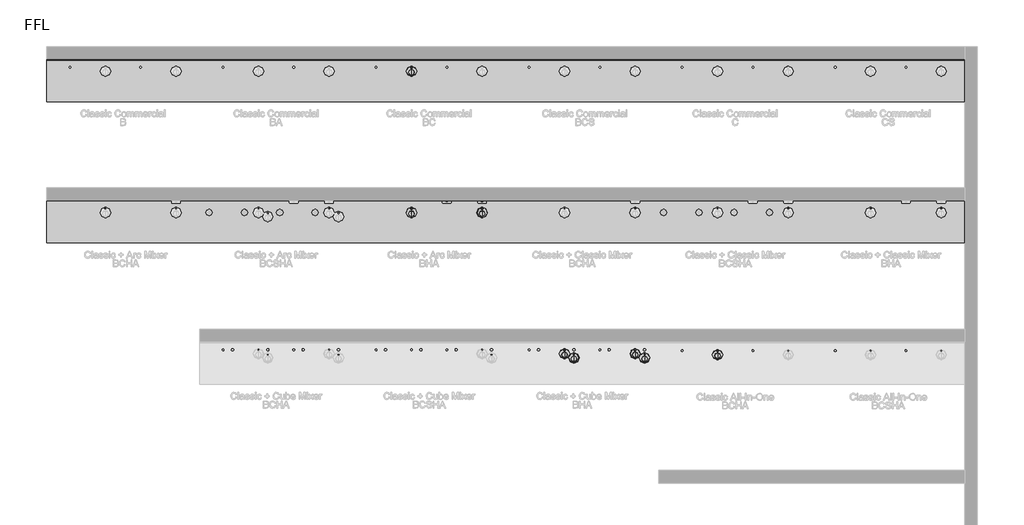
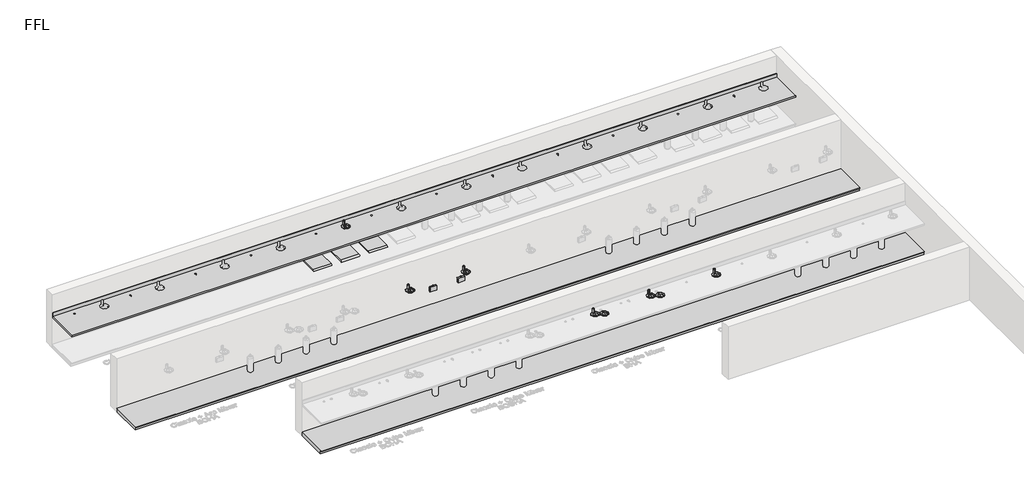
# One storey, part 3 of 13: 15 flow terminals, 3 furniture elements.
"""IFC4 building model written with IfcOpenShell, lengths in millimetres."""

from ifc_helpers import new_model, si_unit, frame, origin, place, context, project, spatial, polyline, circle_curve, transform, mapped, element, save
from ifc_brep_helpers import plane_surface, revolved_surface, advanced_brep
from components import flow_terminal_100_people_matte_black_1da322c1, bcs_and_bc_6de74493, bright_chrome_13082571, bright_chrome_f48ec22c, generic_plinth_900mm_a81356e5, generic_plinth_900mm_fa4a643e

model = new_model("IFC4")

# Units and contexts
model_context = context("Model", 3, world=origin())
ifc_project = project(units=[si_unit("LENGTHUNIT", "METRE", prefix="MILLI")], contexts=[model_context])

# Site, building, storey
site = spatial("IfcSite", under=ifc_project)
building = spatial("IfcBuilding", under=site)
storey = spatial("IfcBuildingStorey", under=building, Name="FFL", Elevation=0.0)

# Flow terminals
placement = place(None, origin())
flow_terminal_100_people_matte_black_shape = flow_terminal_100_people_matte_black_1da322c1(model_context)
element("IfcFlowTerminal", 1, ObjectType="PlumFixt_Zip Commercial_Classic_Arc Mixer_BHA : 100 People - Gloss Black", at=placement, inside=storey, context=model_context, shape_type="MappedRepresentation", body=[
    mapped(flow_terminal_100_people_matte_black_shape, transform((1529.2657919, 4562.7393304, 0.0), x_axis=(1.0, 0.0, 0.0), y_axis=(0.0, 1.0, 0.0), z_axis=(0.0, 0.0, 1.0))),
])
element("IfcFlowTerminal", 2, ObjectType="PlumFixt_Zip Commercial_Classic_Cube Mixer_BHA : 100 People - Gloss Black", at=placement, inside=storey, context=model_context, shape_type="MappedRepresentation", body=[
    mapped(flow_terminal_100_people_matte_black_shape, transform((4779.2647071, 1562.7393304, 0.0), x_axis=(1.0, 0.0, 0.0), y_axis=(0.0, 1.0, 0.0), z_axis=(0.0, 0.0, 1.0))),
])
element("IfcFlowTerminal", 3, ObjectType="PlumFixt_Zip Commercial_Classic_Cube Mixer_BHA : 100 People - Matte Black", at=placement, inside=storey, context=model_context, shape_type="MappedRepresentation", body=[
    mapped(flow_terminal_100_people_matte_black_shape, transform((5529.2647071, 1562.7393304, 0.0), x_axis=(1.0, 0.0, 0.0), y_axis=(0.0, 1.0, 0.0), z_axis=(0.0, 0.0, 1.0))),
])
element("IfcFlowTerminal", 4, ObjectType="PlumFixt_Zip Commercial_Classic_Arc Mixer_BHA : 100 People - Matte Black", at=placement, inside=storey, context=model_context, shape_type="MappedRepresentation", body=[
    mapped(flow_terminal_100_people_matte_black_shape, transform((2279.2657919, 4562.7393304, 0.0), x_axis=(1.0, 0.0, 0.0), y_axis=(0.0, 1.0, 0.0), z_axis=(0.0, 0.0, 1.0))),
])
bcs_and_bc_shape = bcs_and_bc_6de74493(model_context)
element("IfcFlowTerminal", 5, ObjectType="z_PlumFixt_Zip_Vent Tray : BCS and BC", at=placement, inside=storey, context=model_context, shape_type="MappedRepresentation", body=[
    mapped(bcs_and_bc_shape, transform((29.2647071, 7705.7393304, 100.0), x_axis=(1.0, 0.0, 0.0), y_axis=(0.0, 1.0, 0.0), z_axis=(0.0, 0.0, 1.0))),
])
element("IfcFlowTerminal", 6, ObjectType="z_PlumFixt_Zip_Vent Tray : BCS and BC", at=placement, inside=storey, context=model_context, shape_type="MappedRepresentation", body=[
    mapped(bcs_and_bc_shape, transform((779.2647071, 7705.7393304, 100.0), x_axis=(1.0, 0.0, 0.0), y_axis=(0.0, 1.0, 0.0), z_axis=(0.0, 0.0, 1.0))),
])
element("IfcFlowTerminal", 7, ObjectType="z_PlumFixt_Zip_Vent Tray : BCS and BC", at=placement, inside=storey, context=model_context, shape_type="MappedRepresentation", body=[
    mapped(bcs_and_bc_shape, transform((1529.2647071, 7705.7393304, 100.0), x_axis=(1.0, 0.0, 0.0), y_axis=(0.0, 1.0, 0.0), z_axis=(0.0, 0.0, 1.0))),
])
bright_chrome_shape = bright_chrome_13082571(model_context)
element("IfcFlowTerminal", 8, ObjectType="z_PlumFixt_Zip_Font and Tap Riser : Bright Chrome", at=placement, inside=storey, context=model_context, shape_type="MappedRepresentation", body=[
    mapped(bright_chrome_shape, transform((779.2647071, 7577.9893304, 900.0), x_axis=(1.0, 0.0, 0.0), y_axis=(0.0, 1.0, 0.0), z_axis=(0.0, 0.0, 1.0))),
])
element("IfcFlowTerminal", 9, ObjectType="z_PlumFixt_Zip_Font and Tap Riser : Bright Chrome", at=placement, inside=storey, context=model_context, shape_type="MappedRepresentation", body=[
    mapped(bright_chrome_shape, transform((779.2657919, 4577.9893304, 900.0), x_axis=(1.0, 0.0, 0.0), y_axis=(0.0, 1.0, 0.0), z_axis=(0.0, 0.0, 1.0))),
])
element("IfcFlowTerminal", 10, ObjectType="z_PlumFixt_Zip_Font and Tap Riser : Bright Chrome", at=placement, inside=storey, context=model_context, shape_type="MappedRepresentation", body=[
    mapped(bright_chrome_shape, transform((4029.2647071, 1577.9893304, 900.0), x_axis=(1.0, 0.0, 0.0), y_axis=(0.0, 1.0, 0.0), z_axis=(0.0, 0.0, 1.0))),
])
element("IfcFlowTerminal", 11, ObjectType="z_PlumFixt_Zip_Font and Tap Riser : Bright Chrome", at=placement, inside=storey, context=model_context, shape_type="MappedRepresentation", body=[
    mapped(bright_chrome_shape, transform((2279.2657919, 4577.9893304, 900.0), x_axis=(1.0, 0.0, 0.0), y_axis=(0.0, 1.0, 0.0), z_axis=(0.0, 0.0, 1.0))),
])
element("IfcFlowTerminal", 12, ObjectType="z_PlumFixt_Zip_Font and Tap Riser : Bright Chrome", at=placement, inside=storey, context=model_context, shape_type="MappedRepresentation", body=[
    mapped(bright_chrome_shape, transform((5529.2647071, 1577.9893304, 900.0), x_axis=(1.0, 0.0, 0.0), y_axis=(0.0, 1.0, 0.0), z_axis=(0.0, 0.0, 1.0))),
])
element("IfcFlowTerminal", 13, ObjectType="z_PlumFixt_Zip_Font and Tap Riser : Brushed Chrome", at=placement, inside=storey, context=model_context, shape_type="MappedRepresentation", body=[
    mapped(bright_chrome_shape, transform((7279.2647071, 1558.9393304, 900.0), x_axis=(1.0, 0.0, 0.0), y_axis=(0.0, 1.0, 0.0), z_axis=(0.0, 0.0, 1.0))),
])
bright_chrome_2_shape = bright_chrome_f48ec22c(model_context)
element("IfcFlowTerminal", 14, ObjectType="z_PlumFixt_Zip_Font : Brushed Chrome", at=placement, inside=storey, context=model_context, shape_type="MappedRepresentation", body=[
    mapped(bright_chrome_2_shape, transform((4229.2647071, 1491.2393304, 900.0), x_axis=(1.0000000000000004, 0.0, 0.0), y_axis=(0.0, 1.0000000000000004, 0.0), z_axis=(0.0, 0.0, 1.0))),
])
element("IfcFlowTerminal", 15, ObjectType="z_PlumFixt_Zip_Font : Matte Black", at=placement, inside=storey, context=model_context, shape_type="MappedRepresentation", body=[
    mapped(bright_chrome_2_shape, transform((5729.2647071, 1491.2393304, 900.0), x_axis=(1.0000000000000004, 0.0, 0.0), y_axis=(0.0, 1.0000000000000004, 0.0), z_axis=(0.0, 0.0, 1.0))),
])

# Furniture
element("IfcFurniture", 16, ObjectType="Counter Top : 900mm Depth", at=placement, inside=storey, context=model_context, shape_type="AdvancedBrep", body=[
    advanced_brep(
    [(-6969.7352929, 6948.2393304, 900.0), (12530.2647071, 6948.2393304, 900.0), (12530.2647071, 7829.1893304, 900.0), (-6969.7352929, 7829.1893304, 900.0), (-6487.2352929, 7678.2393304, 900.0), (-6452.2352929, 7678.2393304, 900.0), (-5719.7352929, 7639.8212903, 900.0), (-5719.7352929, 7503.4212903, 900.0), (-5737.2352929, 7678.2393304, 900.0), (-5702.2352929, 7678.2393304, 900.0), (-4987.2352929, 7678.2393304, 900.0), (-4952.2352929, 7678.2393304, 900.0), (-4219.7352929, 7639.8212903, 900.0), (-4219.7352929, 7503.4212903, 900.0), (-4237.2352929, 7678.2393304, 900.0), (-4202.2352929, 7678.2393304, 900.0), (-3237.2352929, 7678.2393304, 900.0), (-3202.2352929, 7678.2393304, 900.0), (-2487.2352929, 7678.2393304, 900.0), (-2452.2352929, 7678.2393304, 900.0), (-1737.2352929, 7678.2393304, 900.0), (-1702.2352929, 7678.2393304, 900.0), (-987.2352929, 7678.2393304, 900.0), (-952.2352929, 7678.2393304, 900.0), (12.7647071, 7678.2393304, 900.0), (47.7647071, 7678.2393304, 900.0), (780.2647071, 7639.8212903, 900.0), (780.2647071, 7503.4212903, 900.0), (762.7647071, 7678.2393304, 900.0), (797.7647071, 7678.2393304, 900.0), (1512.7647071, 7678.2393304, 900.0), (1547.7647071, 7678.2393304, 900.0), (2280.2647071, 7639.8212903, 900.0), (2280.2647071, 7503.4212903, 900.0), (2262.7647071, 7678.2393304, 900.0), (2297.7647071, 7678.2393304, 900.0), (-2469.7352929, 7639.8212903, 900.0), (-2469.7352929, 7503.4212903, 900.0), (-969.7352929, 7639.8212903, 900.0), (-969.7352929, 7503.4212903, 900.0), (3262.7647071, 7678.2393304, 900.0), (3297.7647071, 7678.2393304, 900.0), (4030.2647071, 7639.8212903, 900.0), (4030.2647071, 7503.4212903, 900.0), (4012.7647071, 7678.2393304, 900.0), (4047.7647071, 7678.2393304, 900.0), (4762.7647071, 7678.2393304, 900.0), (4797.7647071, 7678.2393304, 900.0), (5530.2647071, 7639.8212903, 900.0), (5530.2647071, 7503.4212903, 900.0), (5512.7647071, 7678.2393304, 900.0), (5547.7647071, 7678.2393304, 900.0), (6512.7647071, 7678.2393304, 900.0), (6547.7647071, 7678.2393304, 900.0), (7280.2647071, 7639.8212903, 900.0), (7280.2647071, 7503.4212903, 900.0), (7262.7647071, 7678.2393304, 900.0), (7297.7647071, 7678.2393304, 900.0), (8012.7647071, 7678.2393304, 900.0), (8047.7647071, 7678.2393304, 900.0), (8780.2647071, 7639.8212903, 900.0), (8780.2647071, 7503.4212903, 900.0), (8762.7647071, 7678.2393304, 900.0), (8797.7647071, 7678.2393304, 900.0), (9762.7647071, 7678.2393304, 900.0), (9797.7647071, 7678.2393304, 900.0), (10530.2647071, 7639.8212903, 900.0), (10530.2647071, 7503.4212903, 900.0), (10512.7647071, 7678.2393304, 900.0), (10547.7647071, 7678.2393304, 900.0), (11262.7647071, 7678.2393304, 900.0), (11297.7647071, 7678.2393304, 900.0), (12030.2647071, 7639.8212903, 900.0), (12030.2647071, 7503.4212903, 900.0), (12012.7647071, 7678.2393304, 900.0), (12047.7647071, 7678.2393304, 900.0), (12530.2647071, 7848.2393304, 860.0), (12530.2647071, 6948.2393304, 860.0), (-6969.7352929, 6948.2393304, 860.0), (-6969.7352929, 7848.2393304, 860.0), (-6452.2352929, 7678.2393304, 860.0), (-6487.2352929, 7678.2393304, 860.0), (-5719.7352929, 7503.4212903, 860.0), (-5719.7352929, 7639.8212903, 860.0), (-5702.2352929, 7678.2393304, 860.0), (-5737.2352929, 7678.2393304, 860.0), (-4952.2352929, 7678.2393304, 860.0), (-4987.2352929, 7678.2393304, 860.0), (-4219.7352929, 7503.4212903, 860.0), (-4219.7352929, 7639.8212903, 860.0), (-4202.2352929, 7678.2393304, 860.0), (-4237.2352929, 7678.2393304, 860.0), (-3202.2352929, 7678.2393304, 860.0), (-3237.2352929, 7678.2393304, 860.0), (-2452.2352929, 7678.2393304, 860.0), (-2487.2352929, 7678.2393304, 860.0), (-1702.2352929, 7678.2393304, 860.0), (-1737.2352929, 7678.2393304, 860.0), (-952.2352929, 7678.2393304, 860.0), (-987.2352929, 7678.2393304, 860.0), (47.7647071, 7678.2393304, 860.0), (12.7647071, 7678.2393304, 860.0), (780.2647071, 7503.4212903, 860.0), (780.2647071, 7639.8212903, 860.0), (797.7647071, 7678.2393304, 860.0), (762.7647071, 7678.2393304, 860.0), (1547.7647071, 7678.2393304, 860.0), (1512.7647071, 7678.2393304, 860.0), (2280.2647071, 7503.4212903, 860.0), (2280.2647071, 7639.8212903, 860.0), (2297.7647071, 7678.2393304, 860.0), (2262.7647071, 7678.2393304, 860.0), (-2469.7352929, 7503.4212903, 860.0), (-2469.7352929, 7639.8212903, 860.0), (-969.7352929, 7503.4212903, 860.0), (-969.7352929, 7639.8212903, 860.0), (3297.7647071, 7678.2393304, 860.0), (3262.7647071, 7678.2393304, 860.0), (4030.2647071, 7503.4212903, 860.0), (4030.2647071, 7639.8212903, 860.0), (4047.7647071, 7678.2393304, 860.0), (4012.7647071, 7678.2393304, 860.0), (4797.7647071, 7678.2393304, 860.0), (4762.7647071, 7678.2393304, 860.0), (5530.2647071, 7503.4212903, 860.0), (5530.2647071, 7639.8212903, 860.0), (5547.7647071, 7678.2393304, 860.0), (5512.7647071, 7678.2393304, 860.0), (6547.7647071, 7678.2393304, 860.0), (6512.7647071, 7678.2393304, 860.0), (7280.2647071, 7503.4212903, 860.0), (7280.2647071, 7639.8212903, 860.0), (7297.7647071, 7678.2393304, 860.0), (7262.7647071, 7678.2393304, 860.0), (8047.7647071, 7678.2393304, 860.0), (8012.7647071, 7678.2393304, 860.0), (8780.2647071, 7503.4212903, 860.0), (8780.2647071, 7639.8212903, 860.0), (8797.7647071, 7678.2393304, 860.0), (8762.7647071, 7678.2393304, 860.0), (9797.7647071, 7678.2393304, 860.0), (9762.7647071, 7678.2393304, 860.0), (10530.2647071, 7503.4212903, 860.0), (10530.2647071, 7639.8212903, 860.0), (10547.7647071, 7678.2393304, 860.0), (10512.7647071, 7678.2393304, 860.0), (11297.7647071, 7678.2393304, 860.0), (11262.7647071, 7678.2393304, 860.0), (12030.2647071, 7503.4212903, 860.0), (12030.2647071, 7639.8212903, 860.0), (12047.7647071, 7678.2393304, 860.0), (12012.7647071, 7678.2393304, 860.0), (-6969.7352929, 7848.2393304, 1001.6), (12530.2647071, 7848.2393304, 1001.6), (-6969.7352929, 7829.1893304, 1001.6), (12530.2647071, 7829.1893304, 1001.6)],
    [
        (0, 1),
        (1, 2),
        (2, 3),
        (3, 0),
        (4, 5, circle_curve(frame((-6469.7352929, 7678.2393304, 900.0), z_axis=(0.0, 0.0, -1.0), x_axis=(-1.0, 0.0, 0.0)), 17.5)),
        (5, 4, circle_curve(frame((-6469.7352929, 7678.2393304, 900.0), z_axis=(0.0, 0.0, -1.0), x_axis=(-1.0, 0.0, 0.0)), 17.5)),
        (6, 7, circle_curve(frame((-5719.7352929, 7571.6212903, 900.0), z_axis=(0.0, 0.0, -1.0), x_axis=(0.0, -1.0, 0.0)), 68.2)),
        (7, 6, circle_curve(frame((-5719.7352929, 7571.6212903, 900.0), z_axis=(0.0, 0.0, -1.0), x_axis=(0.0, -1.0, 0.0)), 68.2)),
        (8, 9, circle_curve(frame((-5719.7352929, 7678.2393304, 900.0), z_axis=(0.0, 0.0, -1.0), x_axis=(-1.0, 0.0, 0.0)), 17.5)),
        (9, 8, circle_curve(frame((-5719.7352929, 7678.2393304, 900.0), z_axis=(0.0, 0.0, -1.0), x_axis=(-1.0, 0.0, 0.0)), 17.5)),
        (10, 11, circle_curve(frame((-4969.7352929, 7678.2393304, 900.0), z_axis=(0.0, 0.0, -1.0), x_axis=(-1.0, 0.0, 0.0)), 17.5)),
        (11, 10, circle_curve(frame((-4969.7352929, 7678.2393304, 900.0), z_axis=(0.0, 0.0, -1.0), x_axis=(-1.0, 0.0, 0.0)), 17.5)),
        (12, 13, circle_curve(frame((-4219.7352929, 7571.6212903, 900.0), z_axis=(0.0, 0.0, -1.0), x_axis=(0.0, -1.0, 0.0)), 68.2)),
        (13, 12, circle_curve(frame((-4219.7352929, 7571.6212903, 900.0), z_axis=(0.0, 0.0, -1.0), x_axis=(0.0, -1.0, 0.0)), 68.2)),
        (14, 15, circle_curve(frame((-4219.7352929, 7678.2393304, 900.0), z_axis=(0.0, 0.0, -1.0), x_axis=(-1.0, 0.0, 0.0)), 17.5)),
        (15, 14, circle_curve(frame((-4219.7352929, 7678.2393304, 900.0), z_axis=(0.0, 0.0, -1.0), x_axis=(-1.0, 0.0, 0.0)), 17.5)),
        (16, 17, circle_curve(frame((-3219.7352929, 7678.2393304, 900.0), z_axis=(0.0, 0.0, -1.0), x_axis=(-1.0, 0.0, 0.0)), 17.5)),
        (17, 16, circle_curve(frame((-3219.7352929, 7678.2393304, 900.0), z_axis=(0.0, 0.0, -1.0), x_axis=(-1.0, 0.0, 0.0)), 17.5)),
        (18, 19, circle_curve(frame((-2469.7352929, 7678.2393304, 900.0), z_axis=(0.0, 0.0, -1.0), x_axis=(-1.0, 0.0, 0.0)), 17.5)),
        (19, 18, circle_curve(frame((-2469.7352929, 7678.2393304, 900.0), z_axis=(0.0, 0.0, -1.0), x_axis=(-1.0, 0.0, 0.0)), 17.5)),
        (20, 21, circle_curve(frame((-1719.7352929, 7678.2393304, 900.0), z_axis=(0.0, 0.0, -1.0), x_axis=(-1.0, 0.0, 0.0)), 17.5)),
        (21, 20, circle_curve(frame((-1719.7352929, 7678.2393304, 900.0), z_axis=(0.0, 0.0, -1.0), x_axis=(-1.0, 0.0, 0.0)), 17.5)),
        (22, 23, circle_curve(frame((-969.7352929, 7678.2393304, 900.0), z_axis=(0.0, 0.0, -1.0), x_axis=(-1.0, 0.0, 0.0)), 17.5)),
        (23, 22, circle_curve(frame((-969.7352929, 7678.2393304, 900.0), z_axis=(0.0, 0.0, -1.0), x_axis=(-1.0, 0.0, 0.0)), 17.5)),
        (24, 25, circle_curve(frame((30.2647071, 7678.2393304, 900.0), z_axis=(0.0, 0.0, -1.0), x_axis=(-1.0, 0.0, 0.0)), 17.5)),
        (25, 24, circle_curve(frame((30.2647071, 7678.2393304, 900.0), z_axis=(0.0, 0.0, -1.0), x_axis=(-1.0, 0.0, 0.0)), 17.5)),
        (26, 27, circle_curve(frame((780.2647071, 7571.6212903, 900.0), z_axis=(0.0, 0.0, -1.0), x_axis=(0.0, -1.0, 0.0)), 68.2)),
        (27, 26, circle_curve(frame((780.2647071, 7571.6212903, 900.0), z_axis=(0.0, 0.0, -1.0), x_axis=(0.0, -1.0, 0.0)), 68.2)),
        (28, 29, circle_curve(frame((780.2647071, 7678.2393304, 900.0), z_axis=(0.0, 0.0, -1.0), x_axis=(-1.0, 0.0, 0.0)), 17.5)),
        (29, 28, circle_curve(frame((780.2647071, 7678.2393304, 900.0), z_axis=(0.0, 0.0, -1.0), x_axis=(-1.0, 0.0, 0.0)), 17.5)),
        (30, 31, circle_curve(frame((1530.2647071, 7678.2393304, 900.0), z_axis=(0.0, 0.0, -1.0), x_axis=(-1.0, 0.0, 0.0)), 17.5)),
        (31, 30, circle_curve(frame((1530.2647071, 7678.2393304, 900.0), z_axis=(0.0, 0.0, -1.0), x_axis=(-1.0, 0.0, 0.0)), 17.5)),
        (32, 33, circle_curve(frame((2280.2647071, 7571.6212903, 900.0), z_axis=(0.0, 0.0, -1.0), x_axis=(0.0, -1.0, 0.0)), 68.2)),
        (33, 32, circle_curve(frame((2280.2647071, 7571.6212903, 900.0), z_axis=(0.0, 0.0, -1.0), x_axis=(0.0, -1.0, 0.0)), 68.2)),
        (34, 35, circle_curve(frame((2280.2647071, 7678.2393304, 900.0), z_axis=(0.0, 0.0, -1.0), x_axis=(-1.0, 0.0, 0.0)), 17.5)),
        (35, 34, circle_curve(frame((2280.2647071, 7678.2393304, 900.0), z_axis=(0.0, 0.0, -1.0), x_axis=(-1.0, 0.0, 0.0)), 17.5)),
        (36, 37, circle_curve(frame((-2469.7352929, 7571.6212903, 900.0), z_axis=(0.0, 0.0, -1.0), x_axis=(0.0, -1.0, 0.0)), 68.2)),
        (37, 36, circle_curve(frame((-2469.7352929, 7571.6212903, 900.0), z_axis=(0.0, 0.0, -1.0), x_axis=(0.0, -1.0, 0.0)), 68.2)),
        (38, 39, circle_curve(frame((-969.7352929, 7571.6212903, 900.0), z_axis=(0.0, 0.0, -1.0), x_axis=(0.0, -1.0, 0.0)), 68.2)),
        (39, 38, circle_curve(frame((-969.7352929, 7571.6212903, 900.0), z_axis=(0.0, 0.0, -1.0), x_axis=(0.0, -1.0, 0.0)), 68.2)),
        (40, 41, circle_curve(frame((3280.2647071, 7678.2393304, 900.0), z_axis=(0.0, 0.0, -1.0), x_axis=(-1.0, 0.0, 0.0)), 17.5)),
        (41, 40, circle_curve(frame((3280.2647071, 7678.2393304, 900.0), z_axis=(0.0, 0.0, -1.0), x_axis=(-1.0, 0.0, 0.0)), 17.5)),
        (42, 43, circle_curve(frame((4030.2647071, 7571.6212903, 900.0), z_axis=(0.0, 0.0, -1.0), x_axis=(0.0, -1.0, 0.0)), 68.2)),
        (43, 42, circle_curve(frame((4030.2647071, 7571.6212903, 900.0), z_axis=(0.0, 0.0, -1.0), x_axis=(0.0, -1.0, 0.0)), 68.2)),
        (44, 45, circle_curve(frame((4030.2647071, 7678.2393304, 900.0), z_axis=(0.0, 0.0, -1.0), x_axis=(-1.0, 0.0, 0.0)), 17.5)),
        (45, 44, circle_curve(frame((4030.2647071, 7678.2393304, 900.0), z_axis=(0.0, 0.0, -1.0), x_axis=(-1.0, 0.0, 0.0)), 17.5)),
        (46, 47, circle_curve(frame((4780.2647071, 7678.2393304, 900.0), z_axis=(0.0, 0.0, -1.0), x_axis=(-1.0, 0.0, 0.0)), 17.5)),
        (47, 46, circle_curve(frame((4780.2647071, 7678.2393304, 900.0), z_axis=(0.0, 0.0, -1.0), x_axis=(-1.0, 0.0, 0.0)), 17.5)),
        (48, 49, circle_curve(frame((5530.2647071, 7571.6212903, 900.0), z_axis=(0.0, 0.0, -1.0), x_axis=(0.0, -1.0, 0.0)), 68.2)),
        (49, 48, circle_curve(frame((5530.2647071, 7571.6212903, 900.0), z_axis=(0.0, 0.0, -1.0), x_axis=(0.0, -1.0, 0.0)), 68.2)),
        (50, 51, circle_curve(frame((5530.2647071, 7678.2393304, 900.0), z_axis=(0.0, 0.0, -1.0), x_axis=(-1.0, 0.0, 0.0)), 17.5)),
        (51, 50, circle_curve(frame((5530.2647071, 7678.2393304, 900.0), z_axis=(0.0, 0.0, -1.0), x_axis=(-1.0, 0.0, 0.0)), 17.5)),
        (52, 53, circle_curve(frame((6530.2647071, 7678.2393304, 900.0), z_axis=(0.0, 0.0, -1.0), x_axis=(-1.0, 0.0, 0.0)), 17.5)),
        (53, 52, circle_curve(frame((6530.2647071, 7678.2393304, 900.0), z_axis=(0.0, 0.0, -1.0), x_axis=(-1.0, 0.0, 0.0)), 17.5)),
        (54, 55, circle_curve(frame((7280.2647071, 7571.6212903, 900.0), z_axis=(0.0, 0.0, -1.0), x_axis=(0.0, -1.0, 0.0)), 68.2)),
        (55, 54, circle_curve(frame((7280.2647071, 7571.6212903, 900.0), z_axis=(0.0, 0.0, -1.0), x_axis=(0.0, -1.0, 0.0)), 68.2)),
        (56, 57, circle_curve(frame((7280.2647071, 7678.2393304, 900.0), z_axis=(0.0, 0.0, -1.0), x_axis=(-1.0, 0.0, 0.0)), 17.5)),
        (57, 56, circle_curve(frame((7280.2647071, 7678.2393304, 900.0), z_axis=(0.0, 0.0, -1.0), x_axis=(-1.0, 0.0, 0.0)), 17.5)),
        (58, 59, circle_curve(frame((8030.2647071, 7678.2393304, 900.0), z_axis=(0.0, 0.0, -1.0), x_axis=(-1.0, 0.0, 0.0)), 17.5)),
        (59, 58, circle_curve(frame((8030.2647071, 7678.2393304, 900.0), z_axis=(0.0, 0.0, -1.0), x_axis=(-1.0, 0.0, 0.0)), 17.5)),
        (60, 61, circle_curve(frame((8780.2647071, 7571.6212903, 900.0), z_axis=(0.0, 0.0, -1.0), x_axis=(0.0, -1.0, 0.0)), 68.2)),
        (61, 60, circle_curve(frame((8780.2647071, 7571.6212903, 900.0), z_axis=(0.0, 0.0, -1.0), x_axis=(0.0, -1.0, 0.0)), 68.2)),
        (62, 63, circle_curve(frame((8780.2647071, 7678.2393304, 900.0), z_axis=(0.0, 0.0, -1.0), x_axis=(-1.0, 0.0, 0.0)), 17.5)),
        (63, 62, circle_curve(frame((8780.2647071, 7678.2393304, 900.0), z_axis=(0.0, 0.0, -1.0), x_axis=(-1.0, 0.0, 0.0)), 17.5)),
        (64, 65, circle_curve(frame((9780.2647071, 7678.2393304, 900.0), z_axis=(0.0, 0.0, -1.0), x_axis=(-1.0, 0.0, 0.0)), 17.5)),
        (65, 64, circle_curve(frame((9780.2647071, 7678.2393304, 900.0), z_axis=(0.0, 0.0, -1.0), x_axis=(-1.0, 0.0, 0.0)), 17.5)),
        (66, 67, circle_curve(frame((10530.2647071, 7571.6212903, 900.0), z_axis=(0.0, 0.0, -1.0), x_axis=(0.0, -1.0, 0.0)), 68.2)),
        (67, 66, circle_curve(frame((10530.2647071, 7571.6212903, 900.0), z_axis=(0.0, 0.0, -1.0), x_axis=(0.0, -1.0, 0.0)), 68.2)),
        (68, 69, circle_curve(frame((10530.2647071, 7678.2393304, 900.0), z_axis=(0.0, 0.0, -1.0), x_axis=(-1.0, 0.0, 0.0)), 17.5)),
        (69, 68, circle_curve(frame((10530.2647071, 7678.2393304, 900.0), z_axis=(0.0, 0.0, -1.0), x_axis=(-1.0, 0.0, 0.0)), 17.5)),
        (70, 71, circle_curve(frame((11280.2647071, 7678.2393304, 900.0), z_axis=(0.0, 0.0, -1.0), x_axis=(-1.0, 0.0, 0.0)), 17.5)),
        (71, 70, circle_curve(frame((11280.2647071, 7678.2393304, 900.0), z_axis=(0.0, 0.0, -1.0), x_axis=(-1.0, 0.0, 0.0)), 17.5)),
        (72, 73, circle_curve(frame((12030.2647071, 7571.6212903, 900.0), z_axis=(0.0, 0.0, -1.0), x_axis=(0.0, -1.0, 0.0)), 68.2)),
        (73, 72, circle_curve(frame((12030.2647071, 7571.6212903, 900.0), z_axis=(0.0, 0.0, -1.0), x_axis=(0.0, -1.0, 0.0)), 68.2)),
        (74, 75, circle_curve(frame((12030.2647071, 7678.2393304, 900.0), z_axis=(0.0, 0.0, -1.0), x_axis=(-1.0, 0.0, 0.0)), 17.5)),
        (75, 74, circle_curve(frame((12030.2647071, 7678.2393304, 900.0), z_axis=(0.0, 0.0, -1.0), x_axis=(-1.0, 0.0, 0.0)), 17.5)),
        (76, 77),
        (77, 78),
        (78, 79),
        (79, 76),
        (80, 81, circle_curve(frame((-6469.7352929, 7678.2393304, 860.0), z_axis=(0.0, 0.0, 1.0), x_axis=(-1.0, 0.0, 0.0)), 17.5)),
        (81, 80, circle_curve(frame((-6469.7352929, 7678.2393304, 860.0), z_axis=(0.0, 0.0, 1.0), x_axis=(-1.0, 0.0, 0.0)), 17.5)),
        (82, 83, circle_curve(frame((-5719.7352929, 7571.6212903, 860.0), z_axis=(0.0, 0.0, 1.0), x_axis=(0.0, -1.0, 0.0)), 68.2)),
        (83, 82, circle_curve(frame((-5719.7352929, 7571.6212903, 860.0), z_axis=(0.0, 0.0, 1.0), x_axis=(0.0, -1.0, 0.0)), 68.2)),
        (84, 85, circle_curve(frame((-5719.7352929, 7678.2393304, 860.0), z_axis=(0.0, 0.0, 1.0), x_axis=(-1.0, 0.0, 0.0)), 17.5)),
        (85, 84, circle_curve(frame((-5719.7352929, 7678.2393304, 860.0), z_axis=(0.0, 0.0, 1.0), x_axis=(-1.0, 0.0, 0.0)), 17.5)),
        (86, 87, circle_curve(frame((-4969.7352929, 7678.2393304, 860.0), z_axis=(0.0, 0.0, 1.0), x_axis=(-1.0, 0.0, 0.0)), 17.5)),
        (87, 86, circle_curve(frame((-4969.7352929, 7678.2393304, 860.0), z_axis=(0.0, 0.0, 1.0), x_axis=(-1.0, 0.0, 0.0)), 17.5)),
        (88, 89, circle_curve(frame((-4219.7352929, 7571.6212903, 860.0), z_axis=(0.0, 0.0, 1.0), x_axis=(0.0, -1.0, 0.0)), 68.2)),
        (89, 88, circle_curve(frame((-4219.7352929, 7571.6212903, 860.0), z_axis=(0.0, 0.0, 1.0), x_axis=(0.0, -1.0, 0.0)), 68.2)),
        (90, 91, circle_curve(frame((-4219.7352929, 7678.2393304, 860.0), z_axis=(0.0, 0.0, 1.0), x_axis=(-1.0, 0.0, 0.0)), 17.5)),
        (91, 90, circle_curve(frame((-4219.7352929, 7678.2393304, 860.0), z_axis=(0.0, 0.0, 1.0), x_axis=(-1.0, 0.0, 0.0)), 17.5)),
        (92, 93, circle_curve(frame((-3219.7352929, 7678.2393304, 860.0), z_axis=(0.0, 0.0, 1.0), x_axis=(-1.0, 0.0, 0.0)), 17.5)),
        (93, 92, circle_curve(frame((-3219.7352929, 7678.2393304, 860.0), z_axis=(0.0, 0.0, 1.0), x_axis=(-1.0, 0.0, 0.0)), 17.5)),
        (94, 95, circle_curve(frame((-2469.7352929, 7678.2393304, 860.0), z_axis=(0.0, 0.0, 1.0), x_axis=(-1.0, 0.0, 0.0)), 17.5)),
        (95, 94, circle_curve(frame((-2469.7352929, 7678.2393304, 860.0), z_axis=(0.0, 0.0, 1.0), x_axis=(-1.0, 0.0, 0.0)), 17.5)),
        (96, 97, circle_curve(frame((-1719.7352929, 7678.2393304, 860.0), z_axis=(0.0, 0.0, 1.0), x_axis=(-1.0, 0.0, 0.0)), 17.5)),
        (97, 96, circle_curve(frame((-1719.7352929, 7678.2393304, 860.0), z_axis=(0.0, 0.0, 1.0), x_axis=(-1.0, 0.0, 0.0)), 17.5)),
        (98, 99, circle_curve(frame((-969.7352929, 7678.2393304, 860.0), z_axis=(0.0, 0.0, 1.0), x_axis=(-1.0, 0.0, 0.0)), 17.5)),
        (99, 98, circle_curve(frame((-969.7352929, 7678.2393304, 860.0), z_axis=(0.0, 0.0, 1.0), x_axis=(-1.0, 0.0, 0.0)), 17.5)),
        (100, 101, circle_curve(frame((30.2647071, 7678.2393304, 860.0), z_axis=(0.0, 0.0, 1.0), x_axis=(-1.0, 0.0, 0.0)), 17.5)),
        (101, 100, circle_curve(frame((30.2647071, 7678.2393304, 860.0), z_axis=(0.0, 0.0, 1.0), x_axis=(-1.0, 0.0, 0.0)), 17.5)),
        (102, 103, circle_curve(frame((780.2647071, 7571.6212903, 860.0), z_axis=(0.0, 0.0, 1.0), x_axis=(0.0, -1.0, 0.0)), 68.2)),
        (103, 102, circle_curve(frame((780.2647071, 7571.6212903, 860.0), z_axis=(0.0, 0.0, 1.0), x_axis=(0.0, -1.0, 0.0)), 68.2)),
        (104, 105, circle_curve(frame((780.2647071, 7678.2393304, 860.0), z_axis=(0.0, 0.0, 1.0), x_axis=(-1.0, 0.0, 0.0)), 17.5)),
        (105, 104, circle_curve(frame((780.2647071, 7678.2393304, 860.0), z_axis=(0.0, 0.0, 1.0), x_axis=(-1.0, 0.0, 0.0)), 17.5)),
        (106, 107, circle_curve(frame((1530.2647071, 7678.2393304, 860.0), z_axis=(0.0, 0.0, 1.0), x_axis=(-1.0, 0.0, 0.0)), 17.5)),
        (107, 106, circle_curve(frame((1530.2647071, 7678.2393304, 860.0), z_axis=(0.0, 0.0, 1.0), x_axis=(-1.0, 0.0, 0.0)), 17.5)),
        (108, 109, circle_curve(frame((2280.2647071, 7571.6212903, 860.0), z_axis=(0.0, 0.0, 1.0), x_axis=(0.0, -1.0, 0.0)), 68.2)),
        (109, 108, circle_curve(frame((2280.2647071, 7571.6212903, 860.0), z_axis=(0.0, 0.0, 1.0), x_axis=(0.0, -1.0, 0.0)), 68.2)),
        (110, 111, circle_curve(frame((2280.2647071, 7678.2393304, 860.0), z_axis=(0.0, 0.0, 1.0), x_axis=(-1.0, 0.0, 0.0)), 17.5)),
        (111, 110, circle_curve(frame((2280.2647071, 7678.2393304, 860.0), z_axis=(0.0, 0.0, 1.0), x_axis=(-1.0, 0.0, 0.0)), 17.5)),
        (112, 113, circle_curve(frame((-2469.7352929, 7571.6212903, 860.0), z_axis=(0.0, 0.0, 1.0), x_axis=(0.0, -1.0, 0.0)), 68.2)),
        (113, 112, circle_curve(frame((-2469.7352929, 7571.6212903, 860.0), z_axis=(0.0, 0.0, 1.0), x_axis=(0.0, -1.0, 0.0)), 68.2)),
        (114, 115, circle_curve(frame((-969.7352929, 7571.6212903, 860.0), z_axis=(0.0, 0.0, 1.0), x_axis=(0.0, -1.0, 0.0)), 68.2)),
        (115, 114, circle_curve(frame((-969.7352929, 7571.6212903, 860.0), z_axis=(0.0, 0.0, 1.0), x_axis=(0.0, -1.0, 0.0)), 68.2)),
        (116, 117, circle_curve(frame((3280.2647071, 7678.2393304, 860.0), z_axis=(0.0, 0.0, 1.0), x_axis=(-1.0, 0.0, 0.0)), 17.5)),
        (117, 116, circle_curve(frame((3280.2647071, 7678.2393304, 860.0), z_axis=(0.0, 0.0, 1.0), x_axis=(-1.0, 0.0, 0.0)), 17.5)),
        (118, 119, circle_curve(frame((4030.2647071, 7571.6212903, 860.0), z_axis=(0.0, 0.0, 1.0), x_axis=(0.0, -1.0, 0.0)), 68.2)),
        (119, 118, circle_curve(frame((4030.2647071, 7571.6212903, 860.0), z_axis=(0.0, 0.0, 1.0), x_axis=(0.0, -1.0, 0.0)), 68.2)),
        (120, 121, circle_curve(frame((4030.2647071, 7678.2393304, 860.0), z_axis=(0.0, 0.0, 1.0), x_axis=(-1.0, 0.0, 0.0)), 17.5)),
        (121, 120, circle_curve(frame((4030.2647071, 7678.2393304, 860.0), z_axis=(0.0, 0.0, 1.0), x_axis=(-1.0, 0.0, 0.0)), 17.5)),
        (122, 123, circle_curve(frame((4780.2647071, 7678.2393304, 860.0), z_axis=(0.0, 0.0, 1.0), x_axis=(-1.0, 0.0, 0.0)), 17.5)),
        (123, 122, circle_curve(frame((4780.2647071, 7678.2393304, 860.0), z_axis=(0.0, 0.0, 1.0), x_axis=(-1.0, 0.0, 0.0)), 17.5)),
        (124, 125, circle_curve(frame((5530.2647071, 7571.6212903, 860.0), z_axis=(0.0, 0.0, 1.0), x_axis=(0.0, -1.0, 0.0)), 68.2)),
        (125, 124, circle_curve(frame((5530.2647071, 7571.6212903, 860.0), z_axis=(0.0, 0.0, 1.0), x_axis=(0.0, -1.0, 0.0)), 68.2)),
        (126, 127, circle_curve(frame((5530.2647071, 7678.2393304, 860.0), z_axis=(0.0, 0.0, 1.0), x_axis=(-1.0, 0.0, 0.0)), 17.5)),
        (127, 126, circle_curve(frame((5530.2647071, 7678.2393304, 860.0), z_axis=(0.0, 0.0, 1.0), x_axis=(-1.0, 0.0, 0.0)), 17.5)),
        (128, 129, circle_curve(frame((6530.2647071, 7678.2393304, 860.0), z_axis=(0.0, 0.0, 1.0), x_axis=(-1.0, 0.0, 0.0)), 17.5)),
        (129, 128, circle_curve(frame((6530.2647071, 7678.2393304, 860.0), z_axis=(0.0, 0.0, 1.0), x_axis=(-1.0, 0.0, 0.0)), 17.5)),
        (130, 131, circle_curve(frame((7280.2647071, 7571.6212903, 860.0), z_axis=(0.0, 0.0, 1.0), x_axis=(0.0, -1.0, 0.0)), 68.2)),
        (131, 130, circle_curve(frame((7280.2647071, 7571.6212903, 860.0), z_axis=(0.0, 0.0, 1.0), x_axis=(0.0, -1.0, 0.0)), 68.2)),
        (132, 133, circle_curve(frame((7280.2647071, 7678.2393304, 860.0), z_axis=(0.0, 0.0, 1.0), x_axis=(-1.0, 0.0, 0.0)), 17.5)),
        (133, 132, circle_curve(frame((7280.2647071, 7678.2393304, 860.0), z_axis=(0.0, 0.0, 1.0), x_axis=(-1.0, 0.0, 0.0)), 17.5)),
        (134, 135, circle_curve(frame((8030.2647071, 7678.2393304, 860.0), z_axis=(0.0, 0.0, 1.0), x_axis=(-1.0, 0.0, 0.0)), 17.5)),
        (135, 134, circle_curve(frame((8030.2647071, 7678.2393304, 860.0), z_axis=(0.0, 0.0, 1.0), x_axis=(-1.0, 0.0, 0.0)), 17.5)),
        (136, 137, circle_curve(frame((8780.2647071, 7571.6212903, 860.0), z_axis=(0.0, 0.0, 1.0), x_axis=(0.0, -1.0, 0.0)), 68.2)),
        (137, 136, circle_curve(frame((8780.2647071, 7571.6212903, 860.0), z_axis=(0.0, 0.0, 1.0), x_axis=(0.0, -1.0, 0.0)), 68.2)),
        (138, 139, circle_curve(frame((8780.2647071, 7678.2393304, 860.0), z_axis=(0.0, 0.0, 1.0), x_axis=(-1.0, 0.0, 0.0)), 17.5)),
        (139, 138, circle_curve(frame((8780.2647071, 7678.2393304, 860.0), z_axis=(0.0, 0.0, 1.0), x_axis=(-1.0, 0.0, 0.0)), 17.5)),
        (140, 141, circle_curve(frame((9780.2647071, 7678.2393304, 860.0), z_axis=(0.0, 0.0, 1.0), x_axis=(-1.0, 0.0, 0.0)), 17.5)),
        (141, 140, circle_curve(frame((9780.2647071, 7678.2393304, 860.0), z_axis=(0.0, 0.0, 1.0), x_axis=(-1.0, 0.0, 0.0)), 17.5)),
        (142, 143, circle_curve(frame((10530.2647071, 7571.6212903, 860.0), z_axis=(0.0, 0.0, 1.0), x_axis=(0.0, -1.0, 0.0)), 68.2)),
        (143, 142, circle_curve(frame((10530.2647071, 7571.6212903, 860.0), z_axis=(0.0, 0.0, 1.0), x_axis=(0.0, -1.0, 0.0)), 68.2)),
        (144, 145, circle_curve(frame((10530.2647071, 7678.2393304, 860.0), z_axis=(0.0, 0.0, 1.0), x_axis=(-1.0, 0.0, 0.0)), 17.5)),
        (145, 144, circle_curve(frame((10530.2647071, 7678.2393304, 860.0), z_axis=(0.0, 0.0, 1.0), x_axis=(-1.0, 0.0, 0.0)), 17.5)),
        (146, 147, circle_curve(frame((11280.2647071, 7678.2393304, 860.0), z_axis=(0.0, 0.0, 1.0), x_axis=(-1.0, 0.0, 0.0)), 17.5)),
        (147, 146, circle_curve(frame((11280.2647071, 7678.2393304, 860.0), z_axis=(0.0, 0.0, 1.0), x_axis=(-1.0, 0.0, 0.0)), 17.5)),
        (148, 149, circle_curve(frame((12030.2647071, 7571.6212903, 860.0), z_axis=(0.0, 0.0, 1.0), x_axis=(0.0, -1.0, 0.0)), 68.2)),
        (149, 148, circle_curve(frame((12030.2647071, 7571.6212903, 860.0), z_axis=(0.0, 0.0, 1.0), x_axis=(0.0, -1.0, 0.0)), 68.2)),
        (150, 151, circle_curve(frame((12030.2647071, 7678.2393304, 860.0), z_axis=(0.0, 0.0, 1.0), x_axis=(-1.0, 0.0, 0.0)), 17.5)),
        (151, 150, circle_curve(frame((12030.2647071, 7678.2393304, 860.0), z_axis=(0.0, 0.0, 1.0), x_axis=(-1.0, 0.0, 0.0)), 17.5)),
        (79, 152),
        (152, 153),
        (153, 76),
        (3, 154),
        (154, 152),
        (78, 0),
        (77, 1),
        (153, 155),
        (155, 2),
        (154, 155),
        (80, 5),
        (4, 81),
        (6, 83),
        (82, 7),
        (84, 9),
        (8, 85),
        (86, 11),
        (10, 87),
        (12, 89),
        (88, 13),
        (90, 15),
        (14, 91),
        (92, 17),
        (16, 93),
        (36, 113),
        (112, 37),
        (94, 19),
        (18, 95),
        (96, 21),
        (20, 97),
        (38, 115),
        (114, 39),
        (98, 23),
        (22, 99),
        (100, 25),
        (24, 101),
        (26, 103),
        (102, 27),
        (104, 29),
        (28, 105),
        (106, 31),
        (30, 107),
        (32, 109),
        (108, 33),
        (110, 35),
        (34, 111),
        (116, 41),
        (40, 117),
        (42, 119),
        (118, 43),
        (120, 45),
        (44, 121),
        (122, 47),
        (46, 123),
        (48, 125),
        (124, 49),
        (126, 51),
        (50, 127),
        (128, 53),
        (52, 129),
        (54, 131),
        (130, 55),
        (132, 57),
        (56, 133),
        (134, 59),
        (58, 135),
        (60, 137),
        (136, 61),
        (138, 63),
        (62, 139),
        (140, 65),
        (64, 141),
        (66, 143),
        (142, 67),
        (144, 69),
        (68, 145),
        (146, 71),
        (70, 147),
        (72, 149),
        (148, 73),
        (150, 75),
        (74, 151),
    ],
    [
        plane_surface(frame((-6969.7352929, 7848.2393304, 900.0), z_axis=(0.0, 0.0, 1.0), x_axis=(-1.0, 0.0, 0.0))),
        plane_surface(frame((-6969.7352929, 7848.2393304, 860.0), z_axis=(0.0, 0.0, -1.0), x_axis=(1.0, 0.0, 0.0))),
        plane_surface(frame((12530.2647071, 7848.2393304, 900.0), z_axis=(0.0, 1.0, 0.0), x_axis=(0.0, 0.0, -1.0))),
        plane_surface(frame((-6969.7352929, 7848.2393304, 900.0), z_axis=(-1.0, 0.0, 0.0), x_axis=(0.0, 0.0, -1.0))),
        plane_surface(frame((-6969.7352929, 6948.2393304, 900.0), z_axis=(0.0, -1.0, 0.0), x_axis=(0.0, 0.0, -1.0))),
        plane_surface(frame((12530.2647071, 6948.2393304, 900.0), z_axis=(1.0, 0.0, 0.0), x_axis=(0.0, 0.0, -1.0))),
        plane_surface(frame((-6969.7352929, 7848.2393304, 1001.6), z_axis=(0.0, 0.0, 1.0), x_axis=(0.0, -1.0, 0.0))),
        plane_surface(frame((-6969.7352929, 7829.1893304, 1001.6), z_axis=(0.0, -1.0, 0.0), x_axis=(0.0, 0.0, -1.0))),
        revolved_surface(polyline([(-6487.2352929, 7678.2393304, 900.0), (-6487.2352929, 7678.2393304, 860.0)]), (-6469.7352929, 7678.2393304, 795.0), (0.0, 0.0, 1.0)),
        revolved_surface(polyline([(-5719.7352929, 7503.4212903, 860.0), (-5719.7352929, 7503.4212903, 900.0)]), (-5719.7352929, 7571.6212903, 1005.0), (0.0, 0.0, -1.0)),
        revolved_surface(polyline([(-5737.2352929, 7678.2393304, 900.0), (-5737.2352929, 7678.2393304, 860.0)]), (-5719.7352929, 7678.2393304, 795.0), (0.0, 0.0, 1.0)),
        revolved_surface(polyline([(-4987.2352929, 7678.2393304, 900.0), (-4987.2352929, 7678.2393304, 860.0)]), (-4969.7352929, 7678.2393304, 795.0), (0.0, 0.0, 1.0)),
        revolved_surface(polyline([(-4219.7352929, 7503.4212903, 860.0), (-4219.7352929, 7503.4212903, 900.0)]), (-4219.7352929, 7571.6212903, 1005.0), (0.0, 0.0, -1.0)),
        revolved_surface(polyline([(-4237.2352929, 7678.2393304, 900.0), (-4237.2352929, 7678.2393304, 860.0)]), (-4219.7352929, 7678.2393304, 795.0), (0.0, 0.0, 1.0)),
        revolved_surface(polyline([(-3237.2352929, 7678.2393304, 900.0), (-3237.2352929, 7678.2393304, 860.0)]), (-3219.7352929, 7678.2393304, 795.0), (0.0, 0.0, 1.0)),
        revolved_surface(polyline([(-2469.7352929, 7503.4212903, 860.0), (-2469.7352929, 7503.4212903, 900.0)]), (-2469.7352929, 7571.6212903, 1005.0), (0.0, 0.0, -1.0)),
        revolved_surface(polyline([(-2487.2352929, 7678.2393304, 900.0), (-2487.2352929, 7678.2393304, 860.0)]), (-2469.7352929, 7678.2393304, 795.0), (0.0, 0.0, 1.0)),
        revolved_surface(polyline([(-1737.2352929, 7678.2393304, 900.0), (-1737.2352929, 7678.2393304, 860.0)]), (-1719.7352929, 7678.2393304, 795.0), (0.0, 0.0, 1.0)),
        revolved_surface(polyline([(-969.7352929, 7503.4212903, 860.0), (-969.7352929, 7503.4212903, 900.0)]), (-969.7352929, 7571.6212903, 1005.0), (0.0, 0.0, -1.0)),
        revolved_surface(polyline([(-987.2352929, 7678.2393304, 900.0), (-987.2352929, 7678.2393304, 860.0)]), (-969.7352929, 7678.2393304, 795.0), (0.0, 0.0, 1.0)),
        revolved_surface(polyline([(12.764707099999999, 7678.2393304, 900.0), (12.764707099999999, 7678.2393304, 860.0)]), (30.2647071, 7678.2393304, 795.0), (0.0, 0.0, 1.0)),
        revolved_surface(polyline([(780.2647071, 7503.4212903, 860.0), (780.2647071, 7503.4212903, 900.0)]), (780.2647071, 7571.6212903, 1005.0), (0.0, 0.0, -1.0)),
        revolved_surface(polyline([(762.7647071, 7678.2393304, 900.0), (762.7647071, 7678.2393304, 860.0)]), (780.2647071, 7678.2393304, 795.0), (0.0, 0.0, 1.0)),
        revolved_surface(polyline([(1512.7647071, 7678.2393304, 900.0), (1512.7647071, 7678.2393304, 860.0)]), (1530.2647071, 7678.2393304, 795.0), (0.0, 0.0, 1.0)),
        revolved_surface(polyline([(2280.2647071, 7503.4212903, 860.0), (2280.2647071, 7503.4212903, 900.0)]), (2280.2647071, 7571.6212903, 1005.0), (0.0, 0.0, -1.0)),
        revolved_surface(polyline([(2262.7647071, 7678.2393304, 900.0), (2262.7647071, 7678.2393304, 860.0)]), (2280.2647071, 7678.2393304, 795.0), (0.0, 0.0, 1.0)),
        revolved_surface(polyline([(3262.7647071, 7678.2393304, 900.0), (3262.7647071, 7678.2393304, 860.0)]), (3280.2647071, 7678.2393304, 795.0), (0.0, 0.0, 1.0)),
        revolved_surface(polyline([(4030.2647071, 7503.4212903, 860.0), (4030.2647071, 7503.4212903, 900.0)]), (4030.2647071, 7571.6212903, 1005.0), (0.0, 0.0, -1.0)),
        revolved_surface(polyline([(4012.7647071, 7678.2393304, 900.0), (4012.7647071, 7678.2393304, 860.0)]), (4030.2647071, 7678.2393304, 795.0), (0.0, 0.0, 1.0)),
        revolved_surface(polyline([(4762.7647071, 7678.2393304, 900.0), (4762.7647071, 7678.2393304, 860.0)]), (4780.2647071, 7678.2393304, 795.0), (0.0, 0.0, 1.0)),
        revolved_surface(polyline([(5530.2647071, 7503.4212903, 860.0), (5530.2647071, 7503.4212903, 900.0)]), (5530.2647071, 7571.6212903, 1005.0), (0.0, 0.0, -1.0)),
        revolved_surface(polyline([(5512.7647071, 7678.2393304, 900.0), (5512.7647071, 7678.2393304, 860.0)]), (5530.2647071, 7678.2393304, 795.0), (0.0, 0.0, 1.0)),
        revolved_surface(polyline([(6512.7647071, 7678.2393304, 900.0), (6512.7647071, 7678.2393304, 860.0)]), (6530.2647071, 7678.2393304, 795.0), (0.0, 0.0, 1.0)),
        revolved_surface(polyline([(7280.2647071, 7503.4212903, 860.0), (7280.2647071, 7503.4212903, 900.0)]), (7280.2647071, 7571.6212903, 1005.0), (0.0, 0.0, -1.0)),
        revolved_surface(polyline([(7262.7647071, 7678.2393304, 900.0), (7262.7647071, 7678.2393304, 860.0)]), (7280.2647071, 7678.2393304, 795.0), (0.0, 0.0, 1.0)),
        revolved_surface(polyline([(8012.7647071, 7678.2393304, 900.0), (8012.7647071, 7678.2393304, 860.0)]), (8030.2647071, 7678.2393304, 795.0), (0.0, 0.0, 1.0)),
        revolved_surface(polyline([(8780.2647071, 7503.4212903, 860.0), (8780.2647071, 7503.4212903, 900.0)]), (8780.2647071, 7571.6212903, 1005.0), (0.0, 0.0, -1.0)),
        revolved_surface(polyline([(8762.7647071, 7678.2393304, 900.0), (8762.7647071, 7678.2393304, 860.0)]), (8780.2647071, 7678.2393304, 795.0), (0.0, 0.0, 1.0)),
        revolved_surface(polyline([(9762.7647071, 7678.2393304, 900.0), (9762.7647071, 7678.2393304, 860.0)]), (9780.2647071, 7678.2393304, 795.0), (0.0, 0.0, 1.0)),
        revolved_surface(polyline([(10530.2647071, 7503.4212903, 860.0), (10530.2647071, 7503.4212903, 900.0)]), (10530.2647071, 7571.6212903, 1005.0), (0.0, 0.0, -1.0)),
        revolved_surface(polyline([(10512.7647071, 7678.2393304, 900.0), (10512.7647071, 7678.2393304, 860.0)]), (10530.2647071, 7678.2393304, 795.0), (0.0, 0.0, 1.0)),
        revolved_surface(polyline([(11262.7647071, 7678.2393304, 900.0), (11262.7647071, 7678.2393304, 860.0)]), (11280.2647071, 7678.2393304, 795.0), (0.0, 0.0, 1.0)),
        revolved_surface(polyline([(12030.2647071, 7503.4212903, 860.0), (12030.2647071, 7503.4212903, 900.0)]), (12030.2647071, 7571.6212903, 1005.0), (0.0, 0.0, -1.0)),
        revolved_surface(polyline([(12012.7647071, 7678.2393304, 900.0), (12012.7647071, 7678.2393304, 860.0)]), (12030.2647071, 7678.2393304, 795.0), (0.0, 0.0, 1.0)),
    ],
    [
        (0, [[1, 2, 3, 4], [5, 6], [7, 8], [9, 10], [11, 12], [13, 14], [15, 16], [17, 18], [19, 20], [21, 22], [23, 24], [25, 26], [27, 28], [29, 30], [31, 32], [33, 34], [35, 36], [37, 38], [39, 40], [41, 42], [43, 44], [45, 46], [47, 48], [49, 50], [51, 52], [53, 54], [55, 56], [57, 58], [59, 60], [61, 62], [63, 64], [65, 66], [67, 68], [69, 70], [71, 72], [73, 74], [75, 76]]),
        (1, [[77, 78, 79, 80], [81, 82], [83, 84], [85, 86], [87, 88], [89, 90], [91, 92], [93, 94], [95, 96], [97, 98], [99, 100], [101, 102], [103, 104], [105, 106], [107, 108], [109, 110], [111, 112], [113, 114], [115, 116], [117, 118], [119, 120], [121, 122], [123, 124], [125, 126], [127, 128], [129, 130], [131, 132], [133, 134], [135, 136], [137, 138], [139, 140], [141, 142], [143, 144], [145, 146], [147, 148], [149, 150], [151, 152]]),
        (2, [[-80, 153, 154, 155]]),
        (3, [[-4, 156, 157, -153, -79, 158]]),
        (4, [[-1, -158, -78, 159]]),
        (5, [[-2, -159, -77, -155, 160, 161]]),
        (6, [[-154, -157, 162, -160]]),
        (7, [[-3, -161, -162, -156]]),
        (8, [[163, -5, 164, -81]]),
        (8, [[-163, -82, -164, -6]]),
        (9, [[165, -83, 166, -7]]),
        (9, [[-165, -8, -166, -84]]),
        (10, [[167, -9, 168, -85]]),
        (10, [[-167, -86, -168, -10]]),
        (11, [[169, -11, 170, -87]]),
        (11, [[-169, -88, -170, -12]]),
        (12, [[171, -89, 172, -13]]),
        (12, [[-171, -14, -172, -90]]),
        (13, [[173, -15, 174, -91]]),
        (13, [[-173, -92, -174, -16]]),
        (14, [[175, -17, 176, -93]]),
        (14, [[-175, -94, -176, -18]]),
        (15, [[177, -113, 178, -37]]),
        (15, [[-177, -38, -178, -114]]),
        (16, [[179, -19, 180, -95]]),
        (16, [[-179, -96, -180, -20]]),
        (17, [[181, -21, 182, -97]]),
        (17, [[-181, -98, -182, -22]]),
        (18, [[183, -115, 184, -39]]),
        (18, [[-183, -40, -184, -116]]),
        (19, [[185, -23, 186, -99]]),
        (19, [[-185, -100, -186, -24]]),
        (20, [[187, -25, 188, -101]]),
        (20, [[-187, -102, -188, -26]]),
        (21, [[189, -103, 190, -27]]),
        (21, [[-189, -28, -190, -104]]),
        (22, [[191, -29, 192, -105]]),
        (22, [[-191, -106, -192, -30]]),
        (23, [[193, -31, 194, -107]]),
        (23, [[-193, -108, -194, -32]]),
        (24, [[195, -109, 196, -33]]),
        (24, [[-195, -34, -196, -110]]),
        (25, [[197, -35, 198, -111]]),
        (25, [[-197, -112, -198, -36]]),
        (26, [[199, -41, 200, -117]]),
        (26, [[-199, -118, -200, -42]]),
        (27, [[201, -119, 202, -43]]),
        (27, [[-201, -44, -202, -120]]),
        (28, [[203, -45, 204, -121]]),
        (28, [[-203, -122, -204, -46]]),
        (29, [[205, -47, 206, -123]]),
        (29, [[-205, -124, -206, -48]]),
        (30, [[207, -125, 208, -49]]),
        (30, [[-207, -50, -208, -126]]),
        (31, [[209, -51, 210, -127]]),
        (31, [[-209, -128, -210, -52]]),
        (32, [[211, -53, 212, -129]]),
        (32, [[-211, -130, -212, -54]]),
        (33, [[213, -131, 214, -55]]),
        (33, [[-213, -56, -214, -132]]),
        (34, [[215, -57, 216, -133]]),
        (34, [[-215, -134, -216, -58]]),
        (35, [[217, -59, 218, -135]]),
        (35, [[-217, -136, -218, -60]]),
        (36, [[219, -137, 220, -61]]),
        (36, [[-219, -62, -220, -138]]),
        (37, [[221, -63, 222, -139]]),
        (37, [[-221, -140, -222, -64]]),
        (38, [[223, -65, 224, -141]]),
        (38, [[-223, -142, -224, -66]]),
        (39, [[225, -143, 226, -67]]),
        (39, [[-225, -68, -226, -144]]),
        (40, [[227, -69, 228, -145]]),
        (40, [[-227, -146, -228, -70]]),
        (41, [[229, -71, 230, -147]]),
        (41, [[-229, -148, -230, -72]]),
        (42, [[231, -149, 232, -73]]),
        (42, [[-231, -74, -232, -150]]),
        (43, [[233, -75, 234, -151]]),
        (43, [[-233, -152, -234, -76]]),
    ],
),
])
generic_plinth_900mm_shape = generic_plinth_900mm_a81356e5(model_context)
element("IfcFurniture", 17, ObjectType="Generic Plinth : 900mm", at=placement, inside=storey, context=model_context, shape_type="MappedRepresentation", body=[
    mapped(generic_plinth_900mm_shape, transform((2761.5270022, 4848.2393304, 0.0), x_axis=(1.0, 0.0, 0.0), y_axis=(0.0, 1.0, 0.0), z_axis=(0.0, 0.0, 1.0))),
])
generic_plinth_900mm_2_shape = generic_plinth_900mm_fa4a643e(model_context)
element("IfcFurniture", 18, ObjectType="Generic Plinth : 900mm", at=placement, inside=storey, context=model_context, shape_type="MappedRepresentation", body=[
    mapped(generic_plinth_900mm_2_shape, transform((4386.7716469, 1848.2393304, 0.0), x_axis=(1.0, 0.0, 0.0), y_axis=(0.0, 1.0, 0.0), z_axis=(0.0, 0.0, 1.0))),
])

save(model, "model.ifc")
